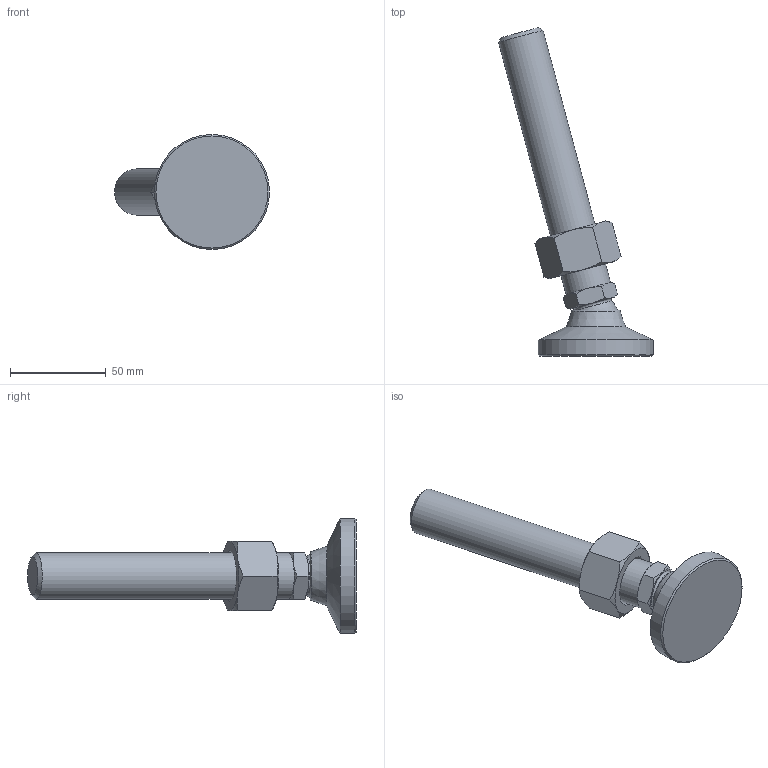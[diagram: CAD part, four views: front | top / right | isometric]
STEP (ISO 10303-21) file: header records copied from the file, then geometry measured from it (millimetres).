
FILE_DESCRIPTION( ( 'STEP AP214' ), ' ' );
FILE_NAME( 'O:/ganter_2015/teil_2/2_5/gn343_2/gn343_2_os/Levelling foot with threaded stud GN 343.2-60-M24-138-OS-(15).stp', '2015-10-26T09:09:08', ( '' ), ( '' ), ' ', 'PARTsolutions', ' ' );
FILE_SCHEMA( ( 'AUTOMOTIVE_DESIGN { 1 0 10303 214 1 1 1 1 }' ) );
Length unit declared in the file: millimetre
Products named in the file (4): Levelling foot with threaded stud GN 343.2-60-M24-138-OS-(15); _Levelling foot with threaded stud GN 343.2-60-M24-138-OS-(15)_foot; _Levelling foot with threaded stud GN 343.2-60-M24-138-OS-(15)_screw; _Stainless Steel-Levelling feet GN 343.2-60-M24-138-OS-(15)_nut
Assembly tree (3 placements, depth 2):
  Levelling foot with threaded stud GN 343.2-60-M24-138-OS-(15)
    _Levelling foot with threaded stud GN 343.2-60-M24-138-OS-(15)_foot
    _Levelling foot with threaded stud GN 343.2-60-M24-138-OS-(15)_screw
    _Stainless Steel-Levelling feet GN 343.2-60-M24-138-OS-(15)_nut
Bounding box: 80.79 x 171.36 x 60 mm (x, y, z)
Volume: 125065.7 mm3; surface area: 27029.7 mm2
Topology: 3 solids, 3 shells, 55 faces, 116 edges, 67 vertices
Faces by surface type: cone 30, plane 18, cylinder 3, torus 2, sphere 2
Full cylindrical faces by diameter (mm): 20.752 x1, 24 x1, 60 x1
Entity records: 2078 total; most frequent: CARTESIAN_POINT 535, DIRECTION 208, ORIENTED_EDGE 198, EDGE_CURVE 99, AXIS2_PLACEMENT_3D 98, EDGE_LOOP 70, VERTEX_POINT 65, FACE_OUTER_BOUND 60
